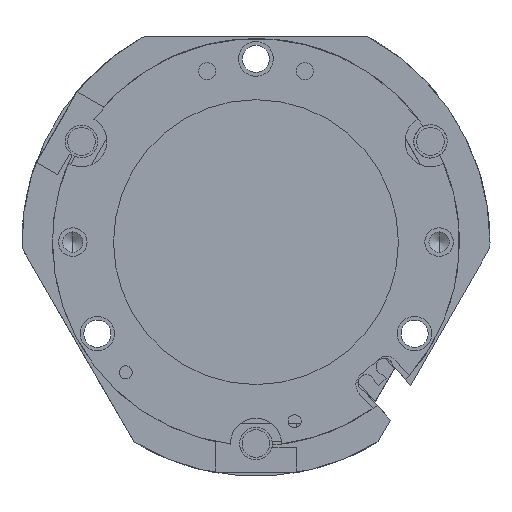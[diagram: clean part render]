
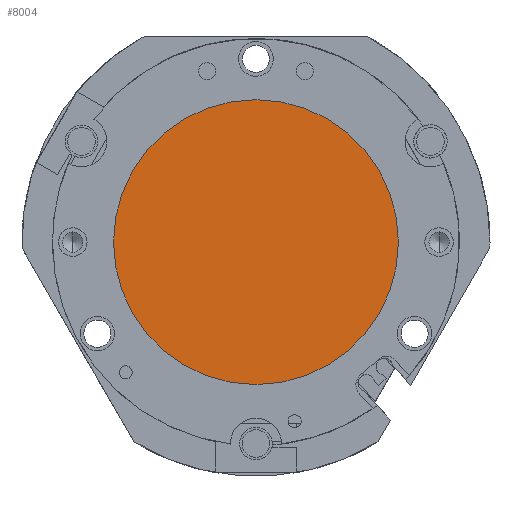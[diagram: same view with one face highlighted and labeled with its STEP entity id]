
A CAD part, front view. The second image highlights one B-rep face of the part: STEP entity #8004.
In plain terms, the highlighted planar face has unit normal (0, -1, 0) as drawn and (0, 1, 0) by its records, which use the part's own axes.
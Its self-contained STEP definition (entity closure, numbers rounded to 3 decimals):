
#524 = EDGE_CURVE ( 'NONE', #3796, #3538, #11889, .T. ) ;
#883 = AXIS2_PLACEMENT_3D ( 'NONE', #11759, #4167, #5994 ) ;
#1154 = CIRCLE ( 'NONE', #2463, 35. ) ;
#1354 = CARTESIAN_POINT ( 'NONE',  ( 0., 5.8, 0. ) ) ;
#1807 = ORIENTED_EDGE ( 'NONE', *, *, #5999, .T. ) ;
#2308 = DIRECTION ( 'NONE',  ( 1., 0., 0. ) ) ;
#2463 = AXIS2_PLACEMENT_3D ( 'NONE', #1354, #8077, #2308 ) ;
#2855 = DIRECTION ( 'NONE',  ( 0., 1., 0. ) ) ;
#3359 = AXIS2_PLACEMENT_3D ( 'NONE', #9519, #2855, #7536 ) ;
#3538 = VERTEX_POINT ( 'NONE', #10710 ) ;
#3796 = VERTEX_POINT ( 'NONE', #10261 ) ;
#4167 = DIRECTION ( 'NONE',  ( 0., 1., 0. ) ) ;
#5303 = FACE_OUTER_BOUND ( 'NONE', #7760, .T. ) ;
#5994 = DIRECTION ( 'NONE',  ( 1., 0., 0. ) ) ;
#5999 = EDGE_CURVE ( 'NONE', #3538, #3796, #1154, .T. ) ;
#7536 = DIRECTION ( 'NONE',  ( 0., 0., 1. ) ) ;
#7760 = EDGE_LOOP ( 'NONE', ( #1807, #8187 ) ) ;
#8004 = ADVANCED_FACE ( 'NONE', ( #5303 ), #10009, .T. ) ;
#8077 = DIRECTION ( 'NONE',  ( 0., 1., 0. ) ) ;
#8187 = ORIENTED_EDGE ( 'NONE', *, *, #524, .T. ) ;
#9519 = CARTESIAN_POINT ( 'NONE',  ( 0., 5.8, 0. ) ) ;
#10009 = PLANE ( 'NONE',  #3359 ) ;
#10261 = CARTESIAN_POINT ( 'NONE',  ( 0., 5.8, 35. ) ) ;
#10710 = CARTESIAN_POINT ( 'NONE',  ( 0., 5.8, -35. ) ) ;
#11759 = CARTESIAN_POINT ( 'NONE',  ( 0., 5.8, 0. ) ) ;
#11889 = CIRCLE ( 'NONE', #883, 35. ) ;
